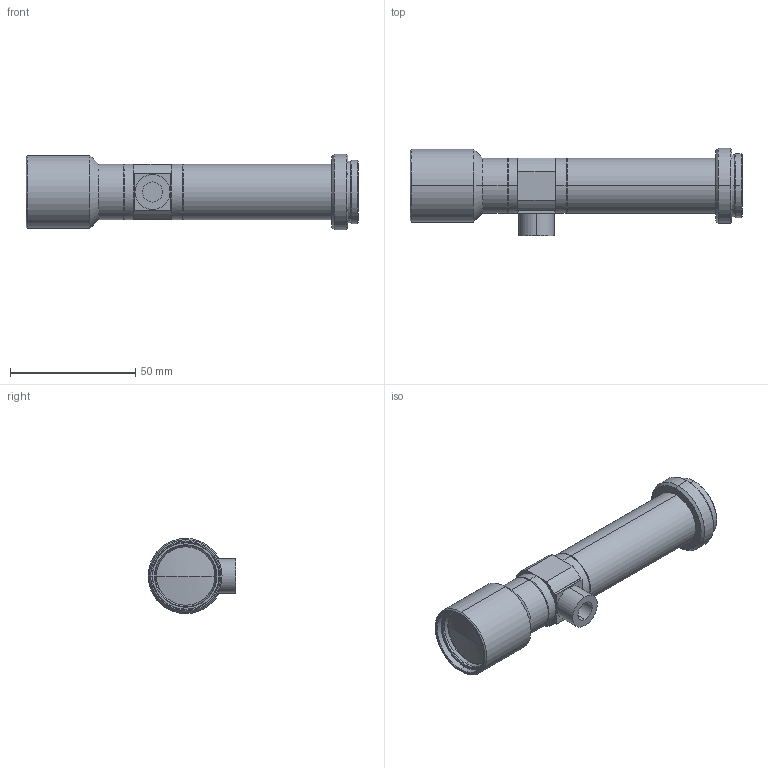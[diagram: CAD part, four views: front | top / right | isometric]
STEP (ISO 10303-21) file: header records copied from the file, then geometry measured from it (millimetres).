
FILE_DESCRIPTION (( 'STEP AP203' ), '1' );
FILE_NAME ('VS-TCH2-110CO.STEP', '2014-10-10T07:16:22', ( 'miura_vst' ), ( '' ), 'SwSTEP 2.0', 'SolidWorks 2014', '' );
FILE_SCHEMA (( 'CONFIG_CONTROL_DESIGN' ));
Length unit declared in the file: millimetre
Products named in the file (1): VS-TCH2-110CO
Bounding box: 132.5 x 35 x 30 mm (x, y, z)
Volume: 43647.9 mm3; surface area: 17022.3 mm2
Topology: 2 solids, 2 shells, 132 faces, 274 edges, 156 vertices
Faces by surface type: cone 54, cylinder 44, plane 30, sphere 4
Entity records: 3539 total; most frequent: DIRECTION 682, CARTESIAN_POINT 563, ORIENTED_EDGE 548, AXIS2_PLACEMENT_3D 275, EDGE_CURVE 274, VERTEX_POINT 156, EDGE_LOOP 144, CIRCLE 142
